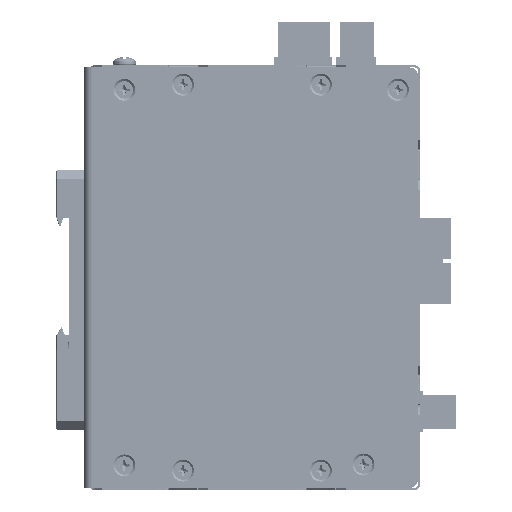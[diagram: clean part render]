
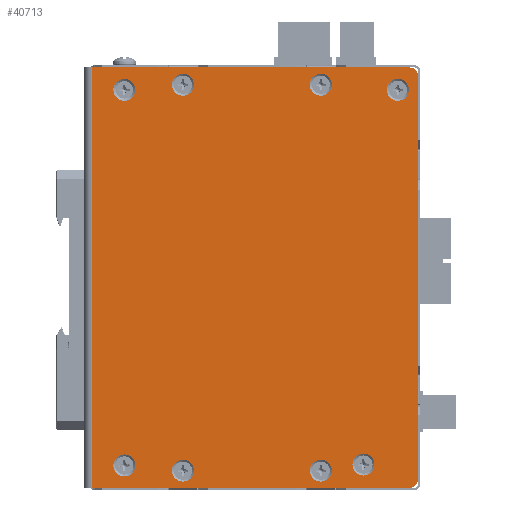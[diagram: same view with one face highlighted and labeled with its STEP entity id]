
A CAD part, left-side view. The second image highlights one B-rep face of the part: STEP entity #40713.
In plain terms, the highlighted planar face has unit normal (-1, 0, 0).
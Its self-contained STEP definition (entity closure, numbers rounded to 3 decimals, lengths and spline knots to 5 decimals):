
#3047=CIRCLE('',#48307,0.00324);
#3048=CIRCLE('',#48308,0.00324);
#3049=CIRCLE('',#48309,0.00324);
#3050=CIRCLE('',#48310,0.00324);
#3051=CIRCLE('',#48311,0.00324);
#3052=CIRCLE('',#48312,0.00324);
#3053=CIRCLE('',#48313,0.00324);
#3054=CIRCLE('',#48314,0.00324);
#3055=CIRCLE('',#48315,0.00254);
#3056=CIRCLE('',#48316,0.00254);
#6646=LINE('',#78506,#10288);
#6650=LINE('',#78515,#10292);
#6656=LINE('',#78529,#10298);
#6658=LINE('',#78551,#10300);
#10288=VECTOR('',#58572,1.);
#10292=VECTOR('',#58578,1.);
#10298=VECTOR('',#58586,1.);
#10300=VECTOR('',#58610,1.);
#20704=ORIENTED_EDGE('',*,*,#26812,.F.);
#20705=ORIENTED_EDGE('',*,*,#26813,.F.);
#20706=ORIENTED_EDGE('',*,*,#26814,.F.);
#20707=ORIENTED_EDGE('',*,*,#26815,.F.);
#20708=ORIENTED_EDGE('',*,*,#26816,.F.);
#20709=ORIENTED_EDGE('',*,*,#26817,.F.);
#20710=ORIENTED_EDGE('',*,*,#26818,.F.);
#20711=ORIENTED_EDGE('',*,*,#26819,.F.);
#20712=ORIENTED_EDGE('',*,*,#26810,.F.);
#20713=ORIENTED_EDGE('',*,*,#26820,.T.);
#20714=ORIENTED_EDGE('',*,*,#26800,.T.);
#20715=ORIENTED_EDGE('',*,*,#26821,.T.);
#20716=ORIENTED_EDGE('',*,*,#26804,.T.);
#20717=ORIENTED_EDGE('',*,*,#26822,.F.);
#26800=EDGE_CURVE('',#30816,#30817,#6646,.T.);
#26804=EDGE_CURVE('',#30820,#30821,#6650,.T.);
#26810=EDGE_CURVE('',#30826,#30827,#6656,.T.);
#26812=EDGE_CURVE('',#30828,#30828,#3047,.T.);
#26813=EDGE_CURVE('',#30829,#30829,#3048,.T.);
#26814=EDGE_CURVE('',#30830,#30830,#3049,.T.);
#26815=EDGE_CURVE('',#30831,#30831,#3050,.T.);
#26816=EDGE_CURVE('',#30832,#30832,#3051,.T.);
#26817=EDGE_CURVE('',#30833,#30833,#3052,.T.);
#26818=EDGE_CURVE('',#30834,#30834,#3053,.T.);
#26819=EDGE_CURVE('',#30835,#30835,#3054,.T.);
#26820=EDGE_CURVE('',#30826,#30816,#3055,.T.);
#26821=EDGE_CURVE('',#30817,#30820,#3056,.T.);
#26822=EDGE_CURVE('',#30827,#30821,#6658,.F.);
#30816=VERTEX_POINT('',#78507);
#30817=VERTEX_POINT('',#78508);
#30820=VERTEX_POINT('',#78516);
#30821=VERTEX_POINT('',#78517);
#30826=VERTEX_POINT('',#78528);
#30827=VERTEX_POINT('',#78530);
#30828=VERTEX_POINT('',#78534);
#30829=VERTEX_POINT('',#78536);
#30830=VERTEX_POINT('',#78538);
#30831=VERTEX_POINT('',#78540);
#30832=VERTEX_POINT('',#78542);
#30833=VERTEX_POINT('',#78544);
#30834=VERTEX_POINT('',#78546);
#30835=VERTEX_POINT('',#78548);
#34149=EDGE_LOOP('',(#20704));
#34150=EDGE_LOOP('',(#20705));
#34151=EDGE_LOOP('',(#20706));
#34152=EDGE_LOOP('',(#20707));
#34153=EDGE_LOOP('',(#20708));
#34154=EDGE_LOOP('',(#20709));
#34155=EDGE_LOOP('',(#20710));
#34156=EDGE_LOOP('',(#20711));
#34157=EDGE_LOOP('',(#20712,#20713,#20714,#20715,#20716,#20717));
#37131=FACE_BOUND('',#34149,.T.);
#37132=FACE_BOUND('',#34150,.T.);
#37133=FACE_BOUND('',#34151,.T.);
#37134=FACE_BOUND('',#34152,.T.);
#37135=FACE_BOUND('',#34153,.T.);
#37136=FACE_BOUND('',#34154,.T.);
#37137=FACE_BOUND('',#34155,.T.);
#37138=FACE_BOUND('',#34156,.T.);
#37139=FACE_BOUND('',#34157,.T.);
#38642=PLANE('',#48306);
#40713=ADVANCED_FACE('',(#37131,#37132,#37133,#37134,#37135,#37136,#37137,
#37138,#37139),#38642,.T.);
#48306=AXIS2_PLACEMENT_3D('',#78532,#58588,#58589);
#48307=AXIS2_PLACEMENT_3D('',#78533,#58590,#58591);
#48308=AXIS2_PLACEMENT_3D('',#78535,#58592,#58593);
#48309=AXIS2_PLACEMENT_3D('',#78537,#58594,#58595);
#48310=AXIS2_PLACEMENT_3D('',#78539,#58596,#58597);
#48311=AXIS2_PLACEMENT_3D('',#78541,#58598,#58599);
#48312=AXIS2_PLACEMENT_3D('',#78543,#58600,#58601);
#48313=AXIS2_PLACEMENT_3D('',#78545,#58602,#58603);
#48314=AXIS2_PLACEMENT_3D('',#78547,#58604,#58605);
#48315=AXIS2_PLACEMENT_3D('',#78549,#58606,#58607);
#48316=AXIS2_PLACEMENT_3D('',#78550,#58608,#58609);
#58572=DIRECTION('',(0.,0.,1.));
#58578=DIRECTION('',(0.,1.,0.));
#58586=DIRECTION('',(0.,1.,0.));
#58588=DIRECTION('',(-1.,0.,0.));
#58589=DIRECTION('',(0.,0.,1.));
#58590=DIRECTION('',(-1.,0.,0.));
#58591=DIRECTION('',(0.,0.,1.));
#58592=DIRECTION('',(-1.,0.,0.));
#58593=DIRECTION('',(0.,0.,1.));
#58594=DIRECTION('',(-1.,0.,0.));
#58595=DIRECTION('',(0.,0.,1.));
#58596=DIRECTION('',(-1.,0.,0.));
#58597=DIRECTION('',(0.,0.,1.));
#58598=DIRECTION('',(-1.,0.,0.));
#58599=DIRECTION('',(0.,0.,1.));
#58600=DIRECTION('',(-1.,0.,0.));
#58601=DIRECTION('',(0.,0.,1.));
#58602=DIRECTION('',(-1.,0.,0.));
#58603=DIRECTION('',(0.,0.,1.));
#58604=DIRECTION('',(-1.,0.,0.));
#58605=DIRECTION('',(0.,0.,1.));
#58606=DIRECTION('',(-1.,0.,0.));
#58607=DIRECTION('',(0.,0.,1.));
#58608=DIRECTION('',(-1.,0.,0.));
#58609=DIRECTION('',(0.,0.,1.));
#58610=DIRECTION('',(0.,0.,-1.));
#78506=CARTESIAN_POINT('',(-0.01524,-0.09703,0.));
#78507=CARTESIAN_POINT('',(-0.01524,-0.09703,-0.05944));
#78508=CARTESIAN_POINT('',(-0.01524,-0.09703,0.05944));
#78515=CARTESIAN_POINT('',(-0.01524,-0.09703,0.06198));
#78516=CARTESIAN_POINT('',(-0.01524,-0.09449,0.06198));
#78517=CARTESIAN_POINT('',(-0.01524,-0.00102,0.06198));
#78528=CARTESIAN_POINT('',(-0.01524,-0.09449,-0.06198));
#78529=CARTESIAN_POINT('',(-0.01524,-0.09703,-0.06198));
#78530=CARTESIAN_POINT('',(-0.01524,-0.00102,-0.06198));
#78532=CARTESIAN_POINT('',(-0.01524,-0.09703,0.));
#78533=CARTESIAN_POINT('',(-0.01524,-0.02769,0.0569));
#78534=CARTESIAN_POINT('',(-0.01524,-0.02769,0.06013));
#78535=CARTESIAN_POINT('',(-0.01524,-0.06833,0.0569));
#78536=CARTESIAN_POINT('',(-0.01524,-0.06833,0.06013));
#78537=CARTESIAN_POINT('',(-0.01524,-0.09106,0.05537));
#78538=CARTESIAN_POINT('',(-0.01524,-0.09106,0.05861));
#78539=CARTESIAN_POINT('',(-0.01524,-0.0809,-0.05512));
#78540=CARTESIAN_POINT('',(-0.01524,-0.0809,-0.05188));
#78541=CARTESIAN_POINT('',(-0.01524,-0.06833,-0.0569));
#78542=CARTESIAN_POINT('',(-0.01524,-0.06833,-0.05366));
#78543=CARTESIAN_POINT('',(-0.01524,-0.02769,-0.0569));
#78544=CARTESIAN_POINT('',(-0.01524,-0.02769,-0.05366));
#78545=CARTESIAN_POINT('',(-0.01524,-0.01041,-0.05537));
#78546=CARTESIAN_POINT('',(-0.01524,-0.01041,-0.05213));
#78547=CARTESIAN_POINT('',(-0.01524,-0.01041,0.05537));
#78548=CARTESIAN_POINT('',(-0.01524,-0.01041,0.05861));
#78549=CARTESIAN_POINT('',(-0.01524,-0.09449,-0.05944));
#78550=CARTESIAN_POINT('',(-0.01524,-0.09449,0.05944));
#78551=CARTESIAN_POINT('',(-0.01524,-0.00102,0.));
